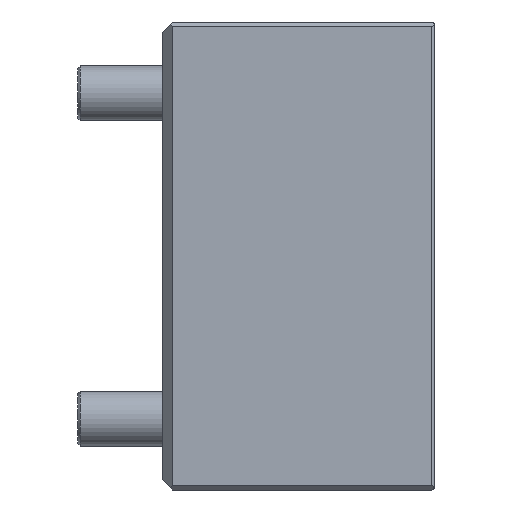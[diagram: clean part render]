
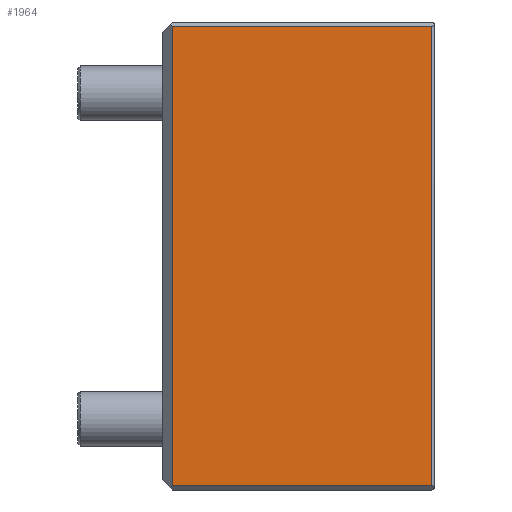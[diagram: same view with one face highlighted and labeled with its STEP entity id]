
A CAD part, front view. The second image highlights one B-rep face of the part: STEP entity #1964.
In plain terms, the highlighted planar face has unit normal (0, -1, 0) as drawn and (0, 1, 0) by its records, which use the part's own axes.
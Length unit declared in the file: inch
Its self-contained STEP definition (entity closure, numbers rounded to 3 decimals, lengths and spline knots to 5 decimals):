
#11 = EDGE_CURVE ( 'NONE', #1340, #316, #977, .T. ) ;
#52 = CARTESIAN_POINT ( 'NONE',  ( 2.115, 0., -0.02 ) ) ;
#59 = CARTESIAN_POINT ( 'NONE',  ( -2.115, 0., -2.5 ) ) ;
#82 = VECTOR ( 'NONE', #451, 39.37008 ) ;
#84 = AXIS2_PLACEMENT_3D ( 'NONE', #955, #1136, #1629 ) ;
#87 = VECTOR ( 'NONE', #202, 39.37008 ) ;
#108 = LINE ( 'NONE', #299, #1344 ) ;
#126 = VERTEX_POINT ( 'NONE', #1806 ) ;
#202 = DIRECTION ( 'NONE',  ( 1., 0., 0. ) ) ;
#299 = CARTESIAN_POINT ( 'NONE',  ( -2.155, 0., -2.406 ) ) ;
#316 = VERTEX_POINT ( 'NONE', #52 ) ;
#328 = PLANE ( 'NONE',  #84 ) ;
#386 = ORIENTED_EDGE ( 'NONE', *, *, #1771, .T. ) ;
#398 = EDGE_LOOP ( 'NONE', ( #1870, #386, #1277, #1411 ) ) ;
#440 = EDGE_CURVE ( 'NONE', #2138, #1340, #1262, .T. ) ;
#451 = DIRECTION ( 'NONE',  ( 0., 0., -1. ) ) ;
#530 = LINE ( 'NONE', #2091, #82 ) ;
#686 = CARTESIAN_POINT ( 'NONE',  ( -2.115, 0., -0.02 ) ) ;
#716 = DIRECTION ( 'NONE',  ( 0., 0., 1. ) ) ;
#865 = CARTESIAN_POINT ( 'NONE',  ( -2.115, 0., -2.406 ) ) ;
#955 = CARTESIAN_POINT ( 'NONE',  ( -2.155, 0., -2.5 ) ) ;
#977 = LINE ( 'NONE', #2036, #87 ) ;
#1136 = DIRECTION ( 'NONE',  ( 0., 1., 0. ) ) ;
#1262 = LINE ( 'NONE', #59, #1877 ) ;
#1277 = ORIENTED_EDGE ( 'NONE', *, *, #1890, .T. ) ;
#1319 = DIRECTION ( 'NONE',  ( -1., 0., 0. ) ) ;
#1340 = VERTEX_POINT ( 'NONE', #686 ) ;
#1344 = VECTOR ( 'NONE', #1319, 39.37008 ) ;
#1411 = ORIENTED_EDGE ( 'NONE', *, *, #440, .T. ) ;
#1629 = DIRECTION ( 'NONE',  ( -1., 0., 0. ) ) ;
#1771 = EDGE_CURVE ( 'NONE', #316, #126, #530, .T. ) ;
#1806 = CARTESIAN_POINT ( 'NONE',  ( 2.115, 0., -2.406 ) ) ;
#1870 = ORIENTED_EDGE ( 'NONE', *, *, #11, .T. ) ;
#1877 = VECTOR ( 'NONE', #716, 39.37008 ) ;
#1890 = EDGE_CURVE ( 'NONE', #126, #2138, #108, .T. ) ;
#1964 = ADVANCED_FACE ( 'NONE', ( #1983 ), #328, .T. ) ;
#1983 = FACE_OUTER_BOUND ( 'NONE', #398, .T. ) ;
#2036 = CARTESIAN_POINT ( 'NONE',  ( -2.155, 0., -0.02 ) ) ;
#2091 = CARTESIAN_POINT ( 'NONE',  ( 2.115, 0., -2.5 ) ) ;
#2138 = VERTEX_POINT ( 'NONE', #865 ) ;
